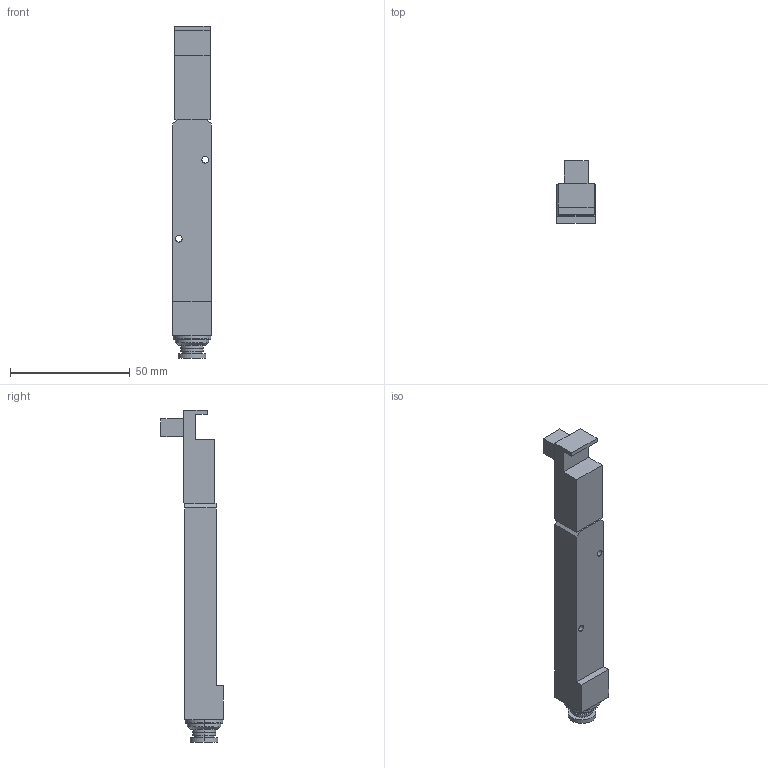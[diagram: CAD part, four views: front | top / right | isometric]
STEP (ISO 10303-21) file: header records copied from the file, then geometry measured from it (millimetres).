
FILE_DESCRIPTION( (''), '2;1');
FILE_NAME ('CVICAD02.6312.F15ZX-XPx6_21273.stp','2021-07-12T19:11:39',(''),(''),'spGate 12.6.6','','');
FILE_SCHEMA (('AUTOMOTIVE_DESIGN'));
Length unit declared in the file: millimetre
Bounding box: 16 x 26.1 x 138.9 mm (x, y, z)
Volume: 27097.9 mm3; surface area: 9192.7 mm2
Topology: 1 solids, 1 shells, 60 faces, 141 edges, 90 vertices
Faces by surface type: plane 32, cylinder 20, bspline 8
Entity records: 2907 total; most frequent: CARTESIAN_POINT 391, ORIENTED_EDGE 282, DIRECTION 261, COLOUR_RGB 202, PRESENTATION_STYLE_ASSIGNMENT 202, STYLED_ITEM 202, EDGE_CURVE 141, DRAUGHTING_PRE_DEFINED_CURVE_FONT 141
